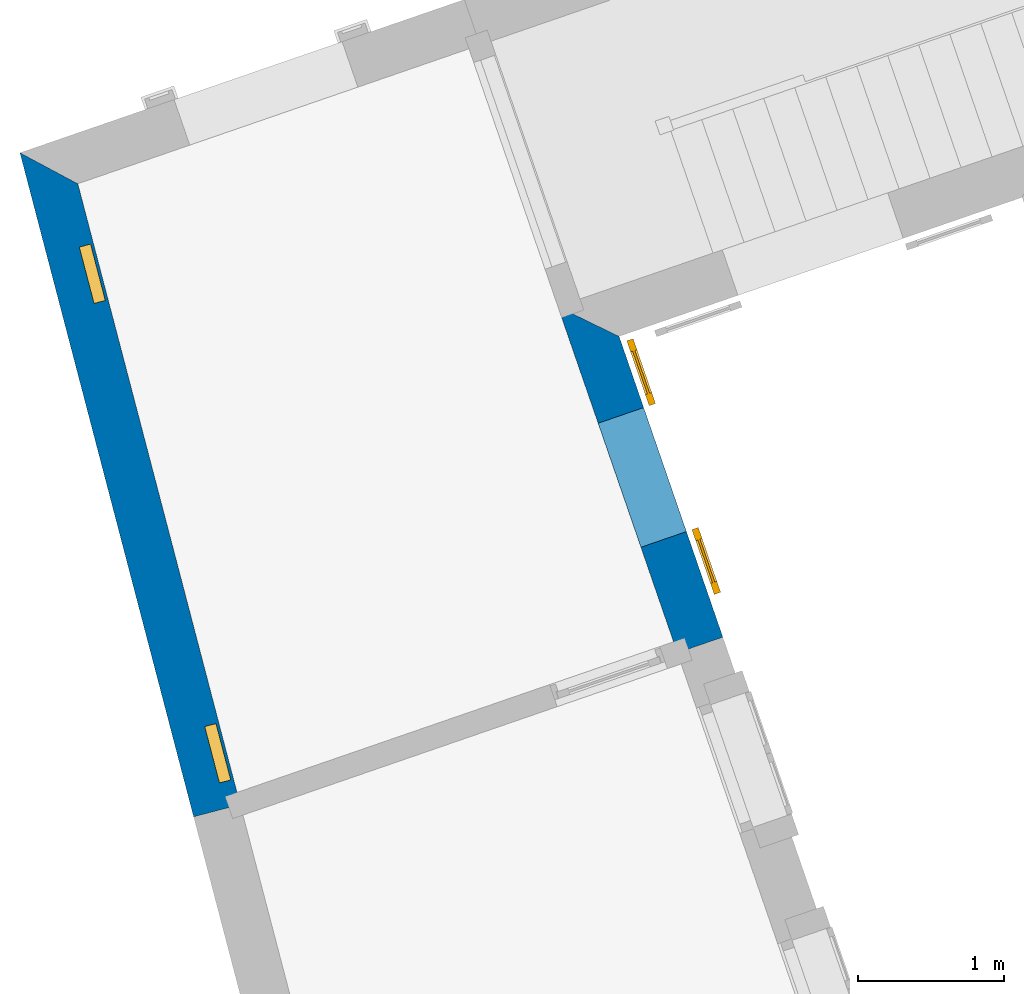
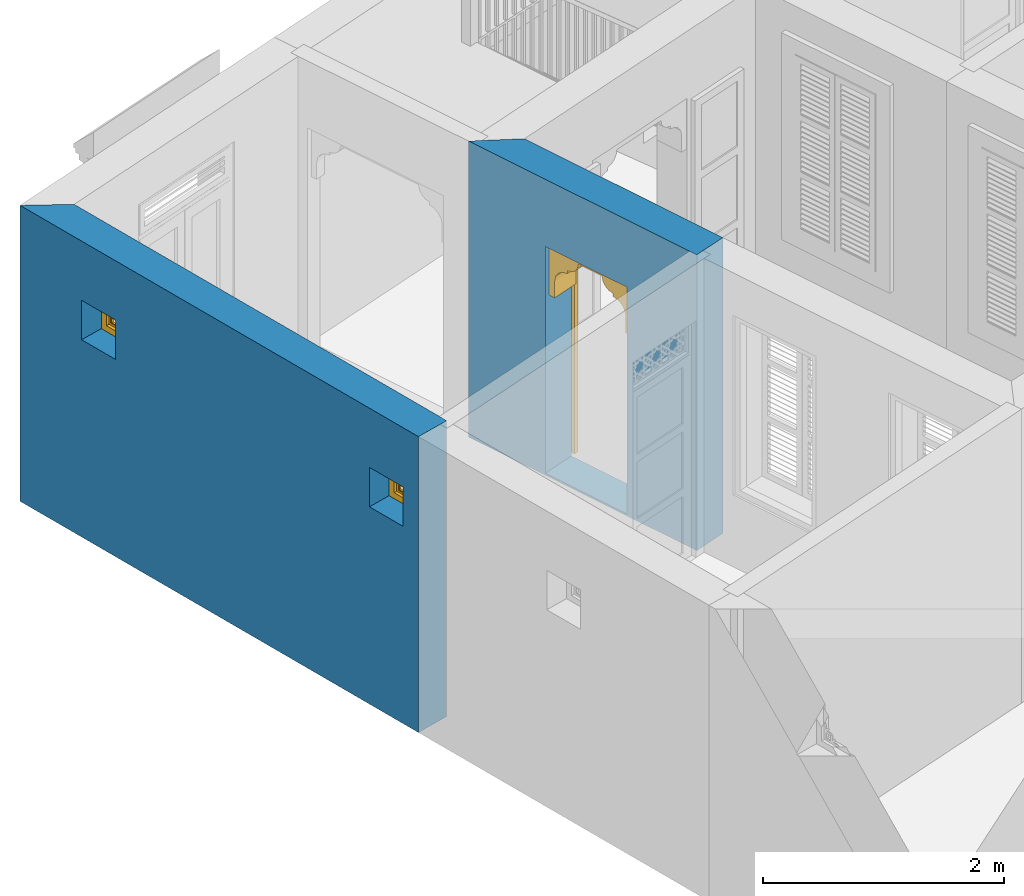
# One storey, part 6 of 16: 2 walls, 2 windows, 1 door, 3 openings.
"""IFC4 building model written with IfcOpenShell, lengths in metres."""

from ifc_helpers import new_model, si_unit, frame, origin, origin_with_axes, place, context, subcontext, project, spatial, polyline, outline, extrude, faceted_brep, source, transform, mapped, material, layer, layer_set, layer_usage, type_object, type_shapes, element, fill, save


model = new_model("IFC4")

# Units and contexts
model_context = context("Model", 3, world=origin_with_axes())
body_context = subcontext(model_context, "Body", "Model", "MODEL_VIEW")
ifc_project = project(units=[si_unit("PLANEANGLEUNIT", "RADIAN"), si_unit("MASSUNIT", "GRAM", prefix="KILO"), si_unit("FORCEUNIT", "NEWTON", prefix="KILO"), si_unit("LENGTHUNIT", "METRE"), si_unit("AREAUNIT", "SQUARE_METRE"), si_unit("VOLUMEUNIT", "CUBIC_METRE")], contexts=[model_context, model_context])

# Site, building, storey
site_placement = place(None, origin_with_axes())
site = spatial("IfcSite", under=ifc_project, at=site_placement, Name="Site plot-8", CompositionType="ELEMENT")
building_placement = place(None, origin_with_axes())
building = spatial("IfcBuilding", under=site, at=building_placement, Name="Building plot-8", CompositionType="ELEMENT")
storey_placement = place(None, origin_with_axes())
storey = spatial("IfcBuildingStorey", under=building, at=storey_placement, Name="plot-8 0", CompositionType="ELEMENT", Elevation=0.0)

# Wall, opening, door
ifc_material = material(Name="Masonry")
ifc_layer = layer(ifc_material, 0.33, ventilated=False)
ifc_layer_set = layer_set([ifc_layer], Name="exterior_0.08_0.25")
ifc_layer_usage = layer_usage(ifc_layer_set, "AXIS2", "POSITIVE", -0.25)
wall_type = type_object("IfcWallType", Name="exterior_0.08_0.25", PredefinedType="SOLIDWALL", material=ifc_layer_set)
wall_1_placement = place(storey_placement, frame((-10.8072816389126, 18.264520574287, 0.0), z_axis=(0.0, 0.0, 1.0), x_axis=(-0.32611221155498, 0.945331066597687, 0.0)))
wall_1 = element("IfcWall", 1, at=wall_1_placement, inside=storey, type_object=wall_type, material=ifc_layer_usage, Name="exterior", context=body_context, shape_type="SweptSolid", body=[
    extrude(outline(polyline([(-3.32609212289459e-16, 0.0800000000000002), (4.95580054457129e-15, -0.25), (2.18282518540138, -0.250000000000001), (2.51282518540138, 0.0800000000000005), (-3.32609212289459e-16, 0.0800000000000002)])), origin_with_axes(), (0.0, 0.0, 1.0), 3.0),
])
opening_1_placement = place(wall_1_placement, frame((0.766412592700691, 0.0, 0.02)))
opening_1 = element("IfcOpeningElement", 2, at=opening_1_placement, cuts=wall_1, Name="My Opening", ObjectType="Opening", context=body_context, shape_type="SweptSolid", body=[
    extrude(outline(polyline([(0.0, -0.27), (0.9, -0.269999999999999), (0.899999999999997, 1.1), (-2.99760216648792e-15, 1.1), (0.0, -0.27)])), origin_with_axes(), (0.0, 0.0, 1.0), 2.3),
])
door_type = type_object("IfcDoorType", Name="arch-900x2300", OperationType="SINGLE_SWING_LEFT", PredefinedType="NOTDEFINED")
shared_shape_1 = source(origin(), body_context, "Body", "Brep", [
    faceted_brep([(-0.08, -0.02, 0.08), (-0.08, -0.02, 0.0), (-0.39, -0.02, 0.0), (-0.39, -0.02, 0.08), (-0.47, -0.02, 0.0), (-0.47, -0.02, 0.08), (-0.39, -0.035, 0.08), (-0.08, -0.035, 0.08), (0.0, -0.02, 0.08), (0.0, -0.02, 0.0), (-0.08, -0.066, 0.0), (-0.39, -0.066, 0.0), (-0.47, -0.066, 0.0), (-0.47, -0.066, 0.08), (-0.39, -0.02, 0.743333), (-0.47, -0.02, 0.743333), (-0.39, -0.035, 0.743333), (-0.08, -0.035, 0.743333), (-0.08, -0.02, 0.743333), (0.0, -0.02, 0.743333), (0.0, -0.066, 0.08), (0.0, -0.066, 0.0), (-0.39, -0.066, 0.08), (-0.08, -0.066, 0.08), (-0.47, -0.066, 0.743333), (-0.39, -0.02, 0.823333), (-0.47, -0.02, 0.823333), (0.0, -0.066, 0.743333), (0.0, -0.02, 0.823333), (-0.08, -0.02, 0.823333), (-0.08, -0.051, 0.08), (-0.39, -0.051, 0.08), (-0.39, -0.066, 0.743333), (-0.47, -0.066, 0.823333), (-0.39, -0.02, 1.486667), (-0.47, -0.02, 1.486667), (0.0, -0.066, 0.823333), (-0.08, -0.066, 0.743333), (0.0, -0.02, 1.486667), (-0.08, -0.02, 1.486667), (-0.08, -0.051, 0.743333), (-0.39, -0.051, 0.743333), (-0.39, -0.066, 0.823333), (-0.47, -0.066, 1.486667), (-0.39, -0.035, 0.823333), (-0.08, -0.035, 0.823333), (-0.39, -0.035, 1.486667), (-0.39, -0.02, 1.566667), (-0.47, -0.02, 1.566667), (0.0, -0.066, 1.486667), (-0.08, -0.066, 0.823333), (-0.08, -0.035, 1.486667), (0.0, -0.02, 1.566667), (-0.08, -0.02, 1.566667), (-0.39, -0.066, 1.486667), (-0.47, -0.066, 1.566667), (-0.39, -0.02, 2.23), (-0.47, -0.02, 2.23), (0.0, -0.066, 1.566667), (-0.08, -0.066, 1.486667), (0.0, -0.02, 2.23), (-0.08, -0.02, 2.23), (-0.08, -0.051, 0.823333), (-0.39, -0.051, 0.823333), (-0.39, -0.051, 1.486667), (-0.39, -0.066, 1.566667), (-0.47, -0.066, 2.23), (-0.39, -0.035, 1.566667), (-0.08, -0.035, 1.566667), (-0.39, -0.035, 2.23), (-0.39, -0.02, 2.31), (-0.47, -0.02, 2.31), (0.0, -0.066, 2.23), (-0.08, -0.066, 1.566667), (-0.08, -0.051, 1.486667), (-0.08, -0.035, 2.23), (0.0, -0.02, 2.31), (-0.08, -0.02, 2.31), (-0.39, -0.066, 2.23), (-0.47, -0.066, 2.31), (-0.39, -0.066, 2.31), (0.0, -0.066, 2.31), (-0.08, -0.066, 2.23), (-0.08, -0.066, 2.31), (-0.08, -0.051, 1.566667), (-0.39, -0.051, 1.566667), (-0.39, -0.051, 2.23), (-0.08, -0.051, 2.23), (1.29, -0.02, 0.08), (1.29, -0.02, 0.0), (0.98, -0.02, 0.0), (0.98, -0.02, 0.08), (1.37, -0.02, 0.08), (1.37, -0.02, 0.0), (0.98, -0.035, 0.08), (1.29, -0.035, 0.08), (0.9, -0.02, 0.0), (0.9, -0.02, 0.08), (1.29, -0.066, 0.0), (0.98, -0.066, 0.0), (1.37, -0.066, 0.08), (1.37, -0.066, 0.0), (1.37, -0.02, 0.743333), (1.29, -0.02, 0.743333), (1.29, -0.035, 0.743333), (0.98, -0.035, 0.743333), (0.98, -0.02, 0.743333), (0.9, -0.02, 0.743333), (0.9, -0.066, 0.0), (0.9, -0.066, 0.08), (0.98, -0.066, 0.08), (1.29, -0.066, 0.08), (1.37, -0.066, 0.743333), (1.37, -0.02, 0.823333), (1.29, -0.02, 0.823333), (0.9, -0.066, 0.743333), (0.98, -0.02, 0.823333), (0.9, -0.02, 0.823333), (1.29, -0.051, 0.08), (0.98, -0.051, 0.08), (1.29, -0.066, 0.743333), (1.37, -0.066, 0.823333), (1.37, -0.02, 1.486667), (1.29, -0.02, 1.486667), (0.9, -0.066, 0.823333), (0.98, -0.066, 0.743333), (0.98, -0.02, 1.486667), (0.9, -0.02, 1.486667), (0.98, -0.051, 0.743333), (1.29, -0.051, 0.743333), (1.29, -0.066, 0.823333), (1.37, -0.066, 1.486667), (0.98, -0.035, 0.823333), (1.29, -0.035, 0.823333), (1.29, -0.035, 1.486667), (1.37, -0.02, 1.566667), (1.29, -0.02, 1.566667), (0.9, -0.066, 1.486667), (0.98, -0.066, 0.823333), (0.98, -0.035, 1.486667), (0.98, -0.02, 1.566667), (0.9, -0.02, 1.566667), (1.29, -0.066, 1.486667), (1.37, -0.066, 1.566667), (1.37, -0.02, 2.23), (1.29, -0.02, 2.23), (0.9, -0.066, 1.566667), (0.98, -0.066, 1.486667), (0.98, -0.02, 2.23), (0.9, -0.02, 2.23), (1.29, -0.051, 0.823333), (0.98, -0.051, 0.823333), (1.29, -0.051, 1.486667), (1.29, -0.066, 1.566667), (1.37, -0.066, 2.23), (0.98, -0.035, 1.566667), (1.29, -0.035, 1.566667), (1.29, -0.035, 2.23), (1.37, -0.02, 2.31), (1.29, -0.02, 2.31), (0.9, -0.066, 2.23), (0.98, -0.066, 1.566667), (0.98, -0.051, 1.486667), (0.98, -0.035, 2.23), (0.98, -0.02, 2.31), (0.9, -0.02, 2.31), (1.29, -0.066, 2.23), (1.37, -0.066, 2.31), (1.29, -0.066, 2.31), (0.9, -0.066, 2.31), (0.98, -0.066, 2.23), (0.98, -0.066, 2.31), (1.29, -0.051, 1.566667), (0.98, -0.051, 1.566667), (1.29, -0.051, 2.23), (0.98, -0.051, 2.23), (0.9, 0.03, 1.78), (0.9, 0.03, 1.95), (0.84, 0.03, 1.95), (0.84, 0.03, 1.78), (0.84, 0.3, 1.95), (0.84, 0.3, 1.78), (0.9, 0.03, 2.12), (0.829, 0.03, 2.004), (0.9, 0.3, 1.78), (0.9, 0.3, 1.95), (0.829, 0.3, 2.004), (0.799, 0.03, 2.049), (0.9, 0.3, 2.12), (0.799, 0.3, 2.049), (0.754, 0.03, 2.079), (0.9, 0.3, 2.29), (0.9, 0.03, 2.29), (0.754, 0.3, 2.079), (0.7, 0.03, 2.09), (0.7, 0.03, 2.12), (0.654, 0.03, 2.129), (0.58, 0.3, 2.29), (0.58, 0.03, 2.29), (0.7, 0.3, 2.12), (0.654, 0.3, 2.129), (0.7, 0.3, 2.09), (0.615, 0.03, 2.155), (0.589, 0.3, 2.194), (0.58, 0.3, 2.24), (0.58, 0.03, 2.24), (0.589, 0.03, 2.194), (0.615, 0.3, 2.155), (0.06, 0.03, 1.78), (0.06, 0.03, 1.95), (0.0, 0.03, 1.95), (0.0, 0.03, 1.78), (0.06, 0.3, 1.78), (0.06, 0.3, 1.95), (0.071, 0.03, 2.004), (0.0, 0.03, 2.12), (0.0, 0.3, 1.95), (0.0, 0.3, 1.78), (0.071, 0.3, 2.004), (0.101, 0.03, 2.049), (0.0, 0.3, 2.12), (0.101, 0.3, 2.049), (0.146, 0.03, 2.079), (0.0, 0.03, 2.29), (0.0, 0.3, 2.29), (0.146, 0.3, 2.079), (0.2, 0.03, 2.12), (0.2, 0.03, 2.09), (0.246, 0.03, 2.129), (0.32, 0.03, 2.29), (0.32, 0.3, 2.29), (0.246, 0.3, 2.129), (0.2, 0.3, 2.12), (0.2, 0.3, 2.09), (0.285, 0.03, 2.155), (0.32, 0.3, 2.24), (0.311, 0.3, 2.194), (0.311, 0.03, 2.194), (0.32, 0.03, 2.24), (0.285, 0.3, 2.155)], [[[0, 1, 2, 3]], [[4, 5, 3, 2]], [[0, 3, 6, 7]], [[1, 0, 8, 9]], [[2, 1, 10, 11]], [[5, 4, 12, 13]], [[14, 3, 5, 15]], [[4, 2, 11, 12]], [[3, 14, 16, 6]], [[6, 16, 17, 7]], [[18, 0, 7, 17]], [[0, 18, 19, 8]], [[9, 8, 20, 21]], [[1, 9, 21, 10]], [[22, 11, 10, 23]], [[13, 12, 11, 22]], [[15, 5, 13, 24]], [[25, 14, 15, 26]], [[14, 18, 17, 16]], [[8, 19, 27, 20]], [[28, 19, 18, 29]], [[23, 10, 21, 20]], [[22, 23, 30, 31]], [[22, 32, 24, 13]], [[26, 15, 24, 33]], [[29, 18, 14, 25]], [[34, 25, 26, 35]], [[19, 28, 36, 27]], [[20, 27, 37, 23]], [[38, 28, 29, 39]], [[23, 37, 40, 30]], [[41, 31, 30, 40]], [[32, 22, 31, 41]], [[32, 42, 33, 24]], [[35, 26, 33, 43]], [[29, 25, 44, 45]], [[25, 34, 46, 44]], [[47, 34, 35, 48]], [[28, 38, 49, 36]], [[27, 36, 50, 37]], [[39, 29, 45, 51]], [[52, 38, 39, 53]], [[37, 32, 41, 40]], [[37, 50, 42, 32]], [[42, 54, 43, 33]], [[48, 35, 43, 55]], [[44, 46, 51, 45]], [[34, 39, 51, 46]], [[34, 47, 53, 39]], [[56, 47, 48, 57]], [[38, 52, 58, 49]], [[36, 49, 59, 50]], [[60, 52, 53, 61]], [[42, 50, 62, 63]], [[54, 42, 63, 64]], [[54, 65, 55, 43]], [[57, 48, 55, 66]], [[53, 47, 67, 68]], [[47, 56, 69, 67]], [[70, 56, 57, 71]], [[52, 60, 72, 58]], [[49, 58, 73, 59]], [[50, 59, 74, 62]], [[61, 53, 68, 75]], [[76, 60, 61, 77]], [[64, 63, 62, 74]], [[59, 54, 64, 74]], [[65, 54, 59, 73]], [[65, 78, 66, 55]], [[71, 57, 66, 79]], [[67, 69, 75, 68]], [[56, 61, 75, 69]], [[77, 61, 56, 70]], [[70, 71, 79, 80]], [[60, 76, 81, 72]], [[58, 72, 82, 73]], [[76, 77, 83, 81]], [[65, 73, 84, 85]], [[78, 65, 85, 86]], [[78, 80, 79, 66]], [[77, 70, 80, 83]], [[72, 81, 83, 82]], [[73, 82, 87, 84]], [[86, 85, 84, 87]], [[82, 78, 86, 87]], [[82, 83, 80, 78]], [[88, 89, 90, 91]], [[89, 88, 92, 93]], [[94, 95, 88, 91]], [[96, 97, 91, 90]], [[98, 99, 90, 89]], [[100, 101, 93, 92]], [[102, 92, 88, 103]], [[101, 98, 89, 93]], [[95, 104, 103, 88]], [[94, 105, 104, 95]], [[105, 94, 91, 106]], [[97, 107, 106, 91]], [[108, 109, 97, 96]], [[99, 108, 96, 90]], [[110, 99, 98, 111]], [[111, 98, 101, 100]], [[112, 100, 92, 102]], [[113, 102, 103, 114]], [[104, 105, 106, 103]], [[109, 115, 107, 97]], [[116, 106, 107, 117]], [[109, 108, 99, 110]], [[118, 119, 110, 111]], [[100, 112, 120, 111]], [[121, 112, 102, 113]], [[114, 103, 106, 116]], [[122, 113, 114, 123]], [[115, 124, 117, 107]], [[110, 125, 115, 109]], [[126, 116, 117, 127]], [[119, 128, 125, 110]], [[128, 119, 118, 129]], [[129, 118, 111, 120]], [[112, 121, 130, 120]], [[131, 121, 113, 122]], [[132, 133, 114, 116]], [[133, 134, 123, 114]], [[135, 122, 123, 136]], [[124, 137, 127, 117]], [[125, 138, 124, 115]], [[139, 132, 116, 126]], [[140, 126, 127, 141]], [[128, 129, 120, 125]], [[120, 130, 138, 125]], [[121, 131, 142, 130]], [[143, 131, 122, 135]], [[132, 139, 134, 133]], [[134, 139, 126, 123]], [[126, 140, 136, 123]], [[144, 135, 136, 145]], [[137, 146, 141, 127]], [[138, 147, 137, 124]], [[148, 140, 141, 149]], [[150, 151, 138, 130]], [[152, 150, 130, 142]], [[131, 143, 153, 142]], [[154, 143, 135, 144]], [[155, 156, 136, 140]], [[156, 157, 145, 136]], [[158, 144, 145, 159]], [[146, 160, 149, 141]], [[147, 161, 146, 137]], [[151, 162, 147, 138]], [[163, 155, 140, 148]], [[164, 148, 149, 165]], [[162, 151, 150, 152]], [[162, 152, 142, 147]], [[161, 147, 142, 153]], [[143, 154, 166, 153]], [[167, 154, 144, 158]], [[155, 163, 157, 156]], [[157, 163, 148, 145]], [[159, 145, 148, 164]], [[168, 167, 158, 159]], [[160, 169, 165, 149]], [[161, 170, 160, 146]], [[169, 171, 164, 165]], [[172, 173, 161, 153]], [[174, 172, 153, 166]], [[154, 167, 168, 166]], [[171, 168, 159, 164]], [[170, 171, 169, 160]], [[173, 175, 170, 161]], [[175, 173, 172, 174]], [[175, 174, 166, 170]], [[166, 168, 171, 170]], [[176, 177, 178, 179]], [[180, 181, 179, 178]], [[177, 182, 183, 178]], [[177, 176, 184, 185]], [[181, 184, 176, 179]], [[181, 180, 185, 184]], [[186, 180, 178, 183]], [[182, 187, 183]], [[182, 177, 185, 188]], [[180, 186, 188, 185]], [[189, 186, 183, 187]], [[182, 190, 187]], [[188, 191, 192, 182]], [[188, 186, 189]], [[193, 189, 187, 190]], [[194, 190, 182, 195]], [[182, 192, 196, 195]], [[192, 191, 197, 198]], [[199, 200, 191, 188]], [[188, 189, 193]], [[201, 193, 190, 194]], [[199, 201, 194, 195]], [[200, 199, 195, 196]], [[192, 202, 196]], [[191, 203, 204, 197]], [[192, 198, 205, 206]], [[207, 191, 200]], [[199, 188, 193, 201]], [[207, 200, 196, 202]], [[192, 206, 202]], [[204, 203, 206, 205]], [[203, 191, 207]], [[203, 207, 202, 206]], [[208, 209, 210, 211]], [[209, 208, 212, 213]], [[209, 214, 215, 210]], [[211, 210, 216, 217]], [[208, 211, 217, 212]], [[217, 216, 213, 212]], [[214, 209, 213, 218]], [[214, 219, 215]], [[220, 216, 210, 215]], [[216, 220, 218, 213]], [[219, 214, 218, 221]], [[219, 222, 215]], [[215, 223, 224, 220]], [[221, 218, 220]], [[222, 219, 221, 225]], [[226, 215, 222, 227]], [[226, 228, 223, 215]], [[229, 230, 224, 223]], [[220, 224, 231, 232]], [[225, 221, 220]], [[227, 222, 225, 233]], [[226, 227, 233, 232]], [[228, 226, 232, 231]], [[228, 234, 223]], [[230, 235, 236, 224]], [[237, 238, 229, 223]], [[231, 224, 239]], [[233, 225, 220, 232]], [[234, 228, 231, 239]], [[234, 237, 223]], [[238, 237, 236, 235]], [[239, 224, 236]], [[237, 234, 239, 236]], [[238, 235, 204, 205]], [[235, 230, 197, 204]], [[229, 238, 205, 198]], [[230, 229, 198, 197]]]),
])
type_shapes(door_type, [shared_shape_1])
door_placement = place(storey_placement, frame((-10.8019787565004, 19.0770845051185, 0.02), z_axis=(0.0, 0.0, 1.0), x_axis=(-0.293500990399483, 0.850797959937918, 0.0)))
door = element("IfcDoor", 3, at=door_placement, inside=storey, type_object=door_type, Name="circulation sahn door", OverallHeight=2.3, OverallWidth=0.9, context=body_context, shape_type="MappedRepresentation", body=[
    mapped(shared_shape_1, transform((0.0, 0.0, 0.0), scale=1.0)),
])
fill(opening_1, door)

# Wall, openings, windows
wall_2_placement = place(storey_placement, frame((-15.0923578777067, 21.5083335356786, 0.0), z_axis=(0.0, 0.0, 1.0), x_axis=(0.253028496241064, -0.967458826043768, 0.0)))
wall_2 = element("IfcWall", 4, at=wall_2_placement, inside=storey, type_object=wall_type, material=ifc_layer_usage, Name="exterior", context=body_context, shape_type="SweptSolid", body=[
    extrude(outline(polyline([(0.0741117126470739, 0.0799999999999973), (-0.231599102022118, -0.250000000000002), (4.47694509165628, -0.25), (4.47694509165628, 0.0799999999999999), (0.0741117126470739, 0.0799999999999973)])), origin_with_axes(), (0.0, 0.0, 1.0), 3.0),
])
opening_2_placement = place(wall_2_placement, frame((0.496945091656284, 0.0, 2.0)))
opening_2 = element("IfcOpeningElement", 5, at=opening_2_placement, cuts=wall_2, Name="My Opening", ObjectType="Opening", context=body_context, shape_type="SweptSolid", body=[
    extrude(outline(polyline([(0.0, -0.270000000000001), (0.399999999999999, -0.270000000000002), (0.399999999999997, 1.1), (-1.55431223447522e-15, 1.1), (0.0, -0.270000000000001)])), origin_with_axes(), (0.0, 0.0, 1.0), 0.4),
])
opening_3_placement = place(wall_2_placement, frame((3.89694509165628, 0.0, 2.0)))
opening_3 = element("IfcOpeningElement", 6, at=opening_3_placement, cuts=wall_2, Name="My Opening", ObjectType="Opening", context=body_context, shape_type="SweptSolid", body=[
    extrude(outline(polyline([(0.0, -0.27), (0.399999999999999, -0.270000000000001), (0.399999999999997, 1.1), (-1.33226762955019e-15, 1.1), (0.0, -0.27)])), origin_with_axes(), (0.0, 0.0, 1.0), 0.4),
])
window_type = type_object("IfcWindowType", Name="barred_window", PartitioningType="DOUBLE_PANEL_HORIZONTAL", PredefinedType="NOTDEFINED")
shared_shape_2 = source(origin(), body_context, "Body", "Brep", [
    faceted_brep([(0.4, 0.25, 0.4), (0.0, 0.25, 0.4), (0.06, 0.25, 0.34), (0.34, 0.25, 0.34), (0.06, 0.33, 0.34), (0.34, 0.33, 0.34), (0.34, 0.25, 0.06), (0.4, 0.25, 0.0), (0.4, 0.33, 0.4), (0.0, 0.33, 0.4), (0.0, 0.25, 0.0), (0.06, 0.25, 0.06), (0.06, 0.33, 0.06), (0.34, 0.33, 0.06), (0.4, 0.33, 0.0), (0.0, 0.33, 0.0), (0.136152, 0.28, 0.08), (0.08, 0.28, 0.08), (0.06, 0.28, 0.06), (0.136152, 0.28, 0.06), (0.136152, 0.29, 0.08), (0.08, 0.29, 0.08), (0.06, 0.28, 0.136152), (0.08, 0.28, 0.136152), (0.06, 0.29, 0.06), (0.136152, 0.29, 0.06), (0.170294, 0.28, 0.08), (0.170294, 0.28, 0.06), (0.136152, 0.28, 0.136152), (0.136152, 0.29, 0.136152), (0.08, 0.29, 0.136152), (0.06, 0.29, 0.136152), (0.08, 0.28, 0.170294), (0.06, 0.28, 0.170294), (0.170294, 0.29, 0.06), (0.229706, 0.28, 0.08), (0.229706, 0.28, 0.06), (0.156152, 0.28, 0.094142), (0.156152, 0.28, 0.136152), (0.185858, 0.28, 0.123848), (0.185858, 0.29, 0.123848), (0.156152, 0.29, 0.094142), (0.156152, 0.29, 0.136152), (0.229706, 0.29, 0.08), (0.170294, 0.29, 0.08), (0.2, 0.28, 0.109706), (0.2, 0.29, 0.109706), (0.06, 0.29, 0.170294), (0.094142, 0.28, 0.156152), (0.08, 0.28, 0.229706), (0.06, 0.28, 0.229706), (0.229706, 0.29, 0.06), (0.263848, 0.28, 0.08), (0.263848, 0.28, 0.06), (0.156152, 0.28, 0.156152), (0.136152, 0.28, 0.156152), (0.173553, 0.28, 0.136152), (0.173553, 0.29, 0.136152), (0.156152, 0.29, 0.156152), (0.136152, 0.29, 0.156152), (0.094142, 0.29, 0.156152), (0.08, 0.29, 0.170294), (0.06, 0.29, 0.229706), (0.123848, 0.28, 0.185858), (0.109706, 0.28, 0.2), (0.08, 0.29, 0.229706), (0.08, 0.28, 0.263848), (0.06, 0.28, 0.263848), (0.263848, 0.29, 0.06), (0.2, 0.28, 0.13799), (0.214142, 0.28, 0.123848), (0.34, 0.28, 0.06), (0.32, 0.28, 0.08), (0.181838, 0.28, 0.156152), (0.136152, 0.28, 0.173553), (0.156152, 0.28, 0.181838), (0.181838, 0.29, 0.156152), (0.2, 0.29, 0.13799), (0.214142, 0.29, 0.123848), (0.136152, 0.29, 0.173553), (0.156152, 0.29, 0.181838), (0.243848, 0.28, 0.094142), (0.243848, 0.29, 0.094142), (0.263848, 0.28, 0.136152), (0.263848, 0.29, 0.08), (0.263848, 0.29, 0.136152), (0.32, 0.29, 0.08), (0.243848, 0.28, 0.136152), (0.243848, 0.29, 0.136152), (0.06, 0.29, 0.263848), (0.123848, 0.29, 0.185858), (0.13799, 0.28, 0.2), (0.123848, 0.28, 0.214142), (0.109706, 0.29, 0.2), (0.094142, 0.28, 0.243848), (0.08, 0.28, 0.32), (0.06, 0.28, 0.34), (0.34, 0.29, 0.06), (0.218162, 0.28, 0.156152), (0.226447, 0.28, 0.136152), (0.34, 0.28, 0.229706), (0.32, 0.28, 0.229706), (0.32, 0.28, 0.170294), (0.32, 0.28, 0.136152), (0.218162, 0.29, 0.156152), (0.226447, 0.29, 0.136152), (0.13799, 0.29, 0.2), (0.32, 0.29, 0.136152), (0.08, 0.29, 0.263848), (0.06, 0.29, 0.34), (0.136152, 0.28, 0.226447), (0.156152, 0.28, 0.218162), (0.094142, 0.29, 0.243848), (0.123848, 0.29, 0.214142), (0.136152, 0.28, 0.243848), (0.136152, 0.28, 0.263848), (0.08, 0.29, 0.32), (0.136152, 0.28, 0.34), (0.136152, 0.28, 0.32), (0.34, 0.29, 0.229706), (0.243848, 0.28, 0.156152), (0.263848, 0.28, 0.156152), (0.34, 0.28, 0.263848), (0.32, 0.28, 0.263848), (0.32, 0.29, 0.229706), (0.32, 0.29, 0.170294), (0.290294, 0.28, 0.2), (0.276152, 0.28, 0.185858), (0.305858, 0.28, 0.156152), (0.243848, 0.29, 0.156152), (0.263848, 0.29, 0.156152), (0.305858, 0.29, 0.156152), (0.276152, 0.29, 0.185858), (0.290294, 0.29, 0.2), (0.136152, 0.29, 0.34), (0.136152, 0.29, 0.226447), (0.156152, 0.29, 0.218162), (0.156152, 0.28, 0.243848), (0.136152, 0.29, 0.243848), (0.156152, 0.28, 0.263848), (0.136152, 0.29, 0.263848), (0.136152, 0.29, 0.32), (0.170294, 0.28, 0.32), (0.170294, 0.28, 0.34), (0.34, 0.29, 0.263848), (0.243848, 0.28, 0.181838), (0.263848, 0.28, 0.173553), (0.34, 0.28, 0.34), (0.32, 0.28, 0.32), (0.305858, 0.28, 0.243848), (0.276152, 0.28, 0.214142), (0.26201, 0.28, 0.2), (0.243848, 0.29, 0.181838), (0.263848, 0.29, 0.173553), (0.26201, 0.29, 0.2), (0.276152, 0.29, 0.214142), (0.32, 0.29, 0.263848), (0.170294, 0.29, 0.34), (0.156152, 0.29, 0.243848), (0.173553, 0.28, 0.263848), (0.181838, 0.28, 0.243848), (0.156152, 0.28, 0.305858), (0.229706, 0.28, 0.32), (0.229706, 0.28, 0.34), (0.34, 0.29, 0.34), (0.263848, 0.28, 0.34), (0.263848, 0.28, 0.32), (0.32, 0.29, 0.32), (0.263848, 0.28, 0.263848), (0.263848, 0.28, 0.243848), (0.305858, 0.29, 0.243848), (0.263848, 0.28, 0.226447), (0.243848, 0.28, 0.218162), (0.243848, 0.29, 0.218162), (0.263848, 0.29, 0.226447), (0.156152, 0.29, 0.263848), (0.170294, 0.29, 0.32), (0.229706, 0.29, 0.34), (0.181838, 0.29, 0.243848), (0.173553, 0.29, 0.263848), (0.185858, 0.28, 0.276152), (0.2, 0.28, 0.26201), (0.156152, 0.29, 0.305858), (0.229706, 0.29, 0.32), (0.263848, 0.29, 0.34), (0.263848, 0.29, 0.32), (0.263848, 0.29, 0.263848), (0.243848, 0.28, 0.243848), (0.243848, 0.28, 0.263848), (0.263848, 0.29, 0.243848), (0.243848, 0.29, 0.243848), (0.2, 0.29, 0.26201), (0.185858, 0.29, 0.276152), (0.214142, 0.28, 0.276152), (0.218162, 0.28, 0.243848), (0.226447, 0.28, 0.263848), (0.243848, 0.28, 0.305858), (0.2, 0.28, 0.290294), (0.2, 0.29, 0.290294), (0.243848, 0.29, 0.263848), (0.218162, 0.29, 0.243848), (0.214142, 0.29, 0.276152), (0.226447, 0.29, 0.263848), (0.243848, 0.29, 0.305858)], [[[0, 1, 2, 3]], [[3, 2, 4, 5]], [[3, 6, 7, 0]], [[1, 0, 8, 9]], [[1, 10, 11, 2]], [[2, 11, 12, 4]], [[9, 8, 5, 4]], [[6, 3, 5, 13]], [[6, 11, 10, 7]], [[0, 7, 14, 8]], [[10, 1, 9, 15]], [[11, 6, 13, 12]], [[4, 12, 15, 9]], [[8, 14, 13, 5]], [[7, 10, 15, 14]], [[12, 13, 14, 15]], [[16, 17, 18, 19]], [[17, 16, 20, 21]], [[22, 18, 17, 23]], [[19, 18, 24, 25]], [[26, 16, 19, 27]], [[16, 28, 29, 20]], [[21, 20, 25, 24]], [[23, 17, 21, 30]], [[18, 22, 31, 24]], [[23, 32, 33, 22]], [[27, 19, 25, 34]], [[35, 26, 27, 36]], [[28, 16, 37, 38]], [[37, 39, 40, 41]], [[38, 37, 41, 42]], [[20, 29, 42, 41]], [[26, 35, 43, 44]], [[45, 26, 44, 46]], [[20, 44, 34, 25]], [[28, 23, 30, 29]], [[24, 31, 30, 21]], [[22, 33, 47, 31]], [[48, 32, 23]], [[32, 49, 50, 33]], [[36, 27, 34, 51]], [[39, 37, 26, 45]], [[52, 35, 36, 53]], [[38, 54, 55, 28]], [[39, 56, 57, 40]], [[41, 40, 46, 44]], [[56, 38, 42, 57]], [[58, 42, 29, 59]], [[35, 45, 46, 43]], [[44, 43, 51, 34]], [[23, 28, 55, 48]], [[29, 30, 60, 59]], [[61, 30, 31, 47]], [[33, 50, 62, 47]], [[48, 63, 64, 32]], [[49, 32, 61, 65]], [[49, 66, 67, 50]], [[53, 36, 51, 68]], [[69, 39, 45, 70]], [[53, 71, 72, 52]], [[73, 54, 38, 56]], [[74, 55, 54, 75]], [[56, 39, 69, 73]], [[40, 57, 76, 77]], [[40, 77, 78, 46]], [[58, 76, 57, 42]], [[59, 79, 80, 58]], [[45, 35, 81, 70]], [[43, 46, 78, 82]], [[83, 52, 84, 85]], [[82, 84, 43]], [[52, 72, 86, 84]], [[43, 84, 68, 51]], [[44, 20, 41]], [[70, 81, 82, 78]], [[81, 87, 88, 82]], [[48, 55, 59, 60]], [[61, 60, 30]], [[65, 61, 47, 62]], [[50, 67, 89, 62]], [[63, 48, 60, 90]], [[63, 91, 92, 64]], [[32, 64, 93, 61]], [[64, 49, 65, 93]], [[94, 66, 49]], [[66, 95, 96, 67]], [[71, 53, 68, 97]], [[98, 69, 70, 99]], [[81, 52, 83, 87]], [[72, 71, 100]], [[100, 101, 102]], [[103, 72, 100]], [[100, 102, 103]], [[54, 73, 76, 58]], [[55, 74, 79, 59]], [[75, 54, 58, 80]], [[63, 74, 75, 91]], [[73, 69, 77, 76]], [[77, 104, 105, 78]], [[79, 90, 106, 80]], [[84, 82, 88, 85]], [[103, 83, 85, 107]], [[72, 103, 107, 86]], [[97, 68, 84, 86]], [[99, 70, 78, 105]], [[87, 99, 105, 88]], [[90, 60, 61, 93]], [[108, 65, 62, 89]], [[67, 96, 109, 89]], [[74, 63, 90, 79]], [[110, 92, 91, 111]], [[49, 64, 92, 94]], [[93, 65, 112, 113]], [[94, 114, 115, 66]], [[95, 66, 108, 116]], [[117, 96, 95, 118]], [[100, 71, 97, 119]], [[69, 98, 104, 77]], [[99, 87, 120, 98]], [[87, 83, 121, 120]], [[101, 100, 122, 123]], [[102, 101, 124, 125]], [[121, 83, 103]], [[103, 102, 126]], [[126, 127, 128]], [[128, 121, 103]], [[103, 126, 128]], [[91, 75, 80, 106]], [[88, 105, 104, 129]], [[106, 90, 93, 113]], [[85, 88, 129, 130]], [[107, 85, 130]], [[131, 132, 133]], [[107, 130, 131]], [[133, 125, 107]], [[107, 131, 133]], [[124, 119, 97]], [[97, 86, 107]], [[107, 125, 124]], [[97, 107, 124]], [[108, 112, 65]], [[116, 108, 89, 109]], [[96, 117, 134, 109]], [[92, 110, 135, 113]], [[111, 91, 106, 136]], [[114, 110, 111, 137]], [[94, 92, 113, 112]], [[114, 94, 112, 138]], [[114, 137, 139, 115]], [[66, 115, 140, 108]], [[118, 95, 116, 141]], [[118, 142, 143, 117]], [[122, 100, 119, 144]], [[98, 120, 129, 104]], [[145, 120, 121, 146]], [[122, 147, 148, 123]], [[123, 149, 101]], [[101, 126, 133, 124]], [[126, 102, 125, 133]], [[127, 126, 150, 151]], [[128, 127, 132, 131]], [[121, 128, 131, 130]], [[113, 135, 136, 106]], [[129, 152, 153, 130]], [[133, 132, 154, 155]], [[119, 124, 156, 144]], [[138, 112, 108, 140]], [[109, 134, 141, 116]], [[117, 143, 157, 134]], [[110, 114, 138, 135]], [[137, 111, 136, 158]], [[159, 139, 137, 160]], [[118, 115, 139, 161]], [[115, 118, 141, 140]], [[161, 142, 118]], [[162, 163, 143, 142]], [[147, 122, 144, 164]], [[120, 145, 152, 129]], [[146, 121, 130, 153]], [[146, 127, 151, 145]], [[147, 165, 166, 148]], [[123, 148, 167, 156]], [[149, 123, 168, 169]], [[149, 150, 126, 101]], [[155, 170, 124, 133]], [[151, 150, 171, 172]], [[127, 146, 153, 132]], [[135, 138, 158, 136]], [[132, 153, 152, 154]], [[155, 154, 173, 174]], [[170, 156, 124]], [[164, 144, 156, 167]], [[158, 138, 140, 175]], [[176, 141, 134, 157]], [[143, 163, 177, 157]], [[160, 137, 158, 178]], [[139, 159, 179, 175]], [[180, 159, 160, 181]], [[161, 139, 175, 182]], [[140, 141, 182, 175]], [[166, 165, 163, 162]], [[162, 142, 176, 183]], [[165, 147, 164, 184]], [[145, 151, 154, 152]], [[148, 166, 185, 167]], [[156, 186, 168, 123]], [[187, 169, 168, 188]], [[149, 169, 189, 170]], [[150, 149, 170, 155]], [[171, 150, 155, 174]], [[171, 169, 187, 172]], [[151, 172, 173, 154]], [[189, 174, 173, 190]], [[156, 170, 189, 186]], [[184, 164, 167, 185]], [[175, 179, 178, 158]], [[176, 182, 141]], [[177, 183, 176, 157]], [[163, 165, 184, 177]], [[181, 160, 178, 191]], [[159, 180, 192, 179]], [[180, 161, 182, 192]], [[193, 181, 194, 195]], [[196, 162, 197, 193]], [[180, 197, 142, 161]], [[197, 180, 181, 193]], [[142, 197, 198, 176]], [[162, 196, 166]], [[35, 52, 81]], [[197, 162, 183, 198]], [[185, 166, 168, 186]], [[196, 188, 168, 166]], [[187, 188, 195, 194]], [[169, 171, 174, 189]], [[172, 187, 190, 173]], [[189, 190, 199, 186]], [[184, 185, 183, 177]], [[179, 192, 191, 178]], [[176, 198, 192, 182]], [[194, 181, 191, 200]], [[191, 192, 198, 201]], [[26, 37, 16]], [[193, 195, 202, 201]], [[196, 193, 201, 203]], [[191, 201, 202, 200]], [[183, 203, 201, 198]], [[188, 196, 203, 199]], [[203, 183, 185]], [[199, 203, 185, 186]], [[195, 188, 199, 202]], [[187, 194, 200, 190]], [[199, 190, 200, 202]]]),
])
type_shapes(window_type, [shared_shape_2])
window_1_placement = place(storey_placement, frame((-15.2278304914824, 20.9592419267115, 2.0), z_axis=(0.0, 0.0, 1.0), x_axis=(0.101211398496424, -0.386983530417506, 0.0)))
window_1 = element("IfcWindow", 7, at=window_1_placement, inside=storey, type_object=window_type, Name="circulation street window", OverallHeight=0.4, OverallWidth=0.4, context=body_context, shape_type="MappedRepresentation", body=[
    mapped(shared_shape_2, transform((0.0, 0.0, 0.0), scale=1.0)),
])
fill(opening_2, window_1)
window_2_placement = place(storey_placement, frame((-14.3675336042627, 17.6698819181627, 2.0), z_axis=(0.0, 0.0, 1.0), x_axis=(0.101211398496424, -0.386983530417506, 0.0)))
window_2 = element("IfcWindow", 8, at=window_2_placement, inside=storey, type_object=window_type, Name="circulation street window", OverallHeight=0.4, OverallWidth=0.4, context=body_context, shape_type="MappedRepresentation", body=[
    mapped(shared_shape_2, transform((0.0, 0.0, 0.0), scale=1.0)),
])
fill(opening_3, window_2)

save(model, "model.ifc")
